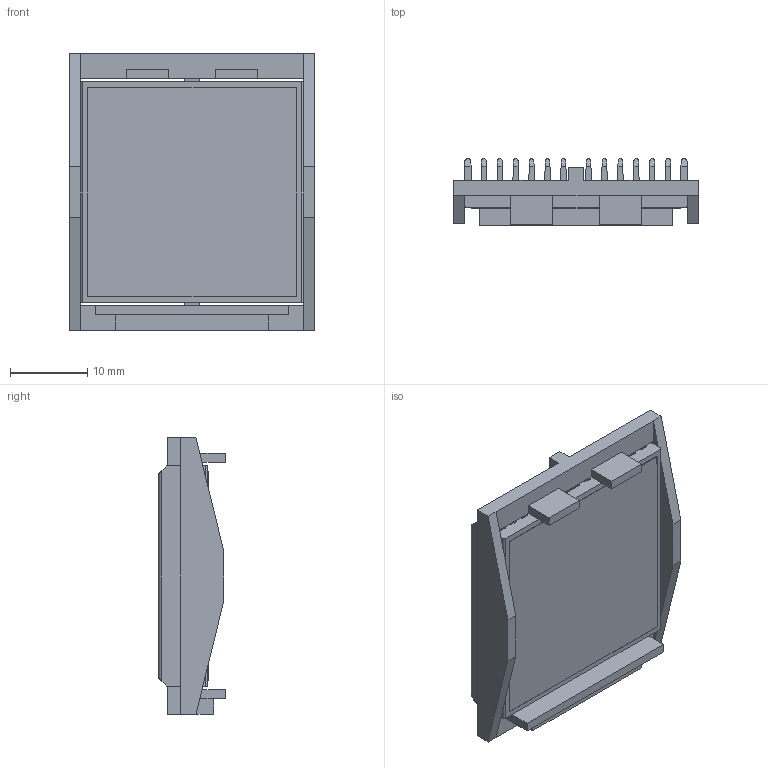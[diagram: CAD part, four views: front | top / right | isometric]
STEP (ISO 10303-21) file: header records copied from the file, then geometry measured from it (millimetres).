
FILE_DESCRIPTION (( 'STEP AP214' ), '1' );
FILE_NAME ('INL29001-6-1.7Y.STEP', '2023-02-21T22:45:56', ( '' ), ( '' ), 'SwSTEP 2.0', 'SolidWorks 2020', '' );
FILE_SCHEMA (( 'AUTOMOTIVE_DESIGN' ));
Length unit declared in the file: millimetre
Products named in the file (1): INL29001-6-1.7Y
Bounding box: 31.7 x 8.6 x 35.8 mm (x, y, z)
Volume: 3948.6 mm3; surface area: 8741.7 mm2
Topology: 3 solids, 3 shells, 168 faces, 488 edges, 324 vertices
Faces by surface type: plane 126, cylinder 42
Entity records: 7380 total; most frequent: CARTESIAN_POINT 1065, ORIENTED_EDGE 976, DIRECTION 854, EDGE_CURVE 488, VECTOR 404, LINE 404, VERTEX_POINT 324, AXIS2_PLACEMENT_3D 225
